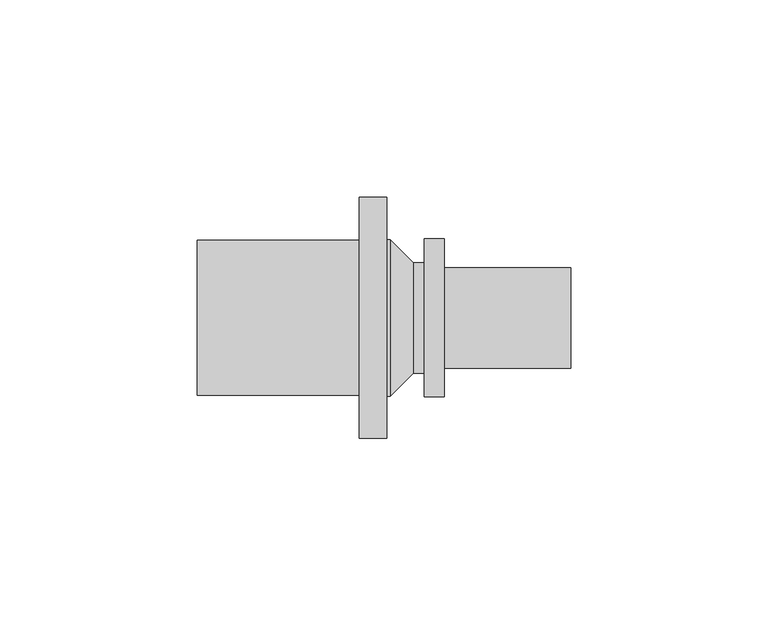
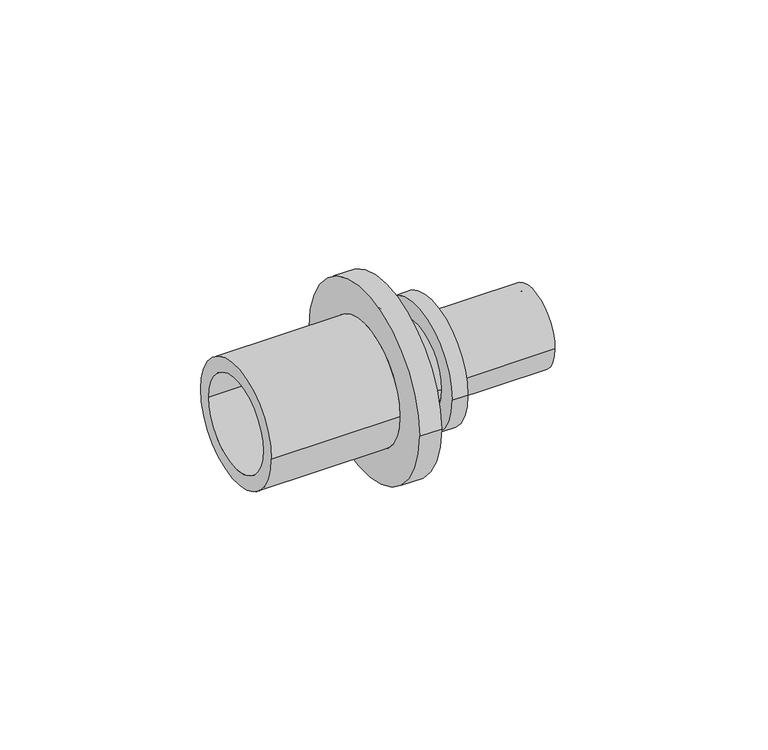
"""IFC4 building model written with IfcOpenShell, lengths in millimetres: pipe fitting geometry, RAUTITAN_Transition_LX : RTI LX Tr DE."""

from ifc_helpers import new_model, si_unit, frame, origin, place, context, project, spatial, polyline, circle_curve, source, transform, mapped, element, save
from ifc_brep_helpers import plane_surface, cylinder_surface, revolved_surface, advanced_brep


def pipe_fitting_b69b1b09(model_context):
    return source(origin(), model_context, "Body", "AdvancedBrep", [
        advanced_brep(
        [(-51.75, 15.0, 0.0), (-51.75, -15.0, 0.0), (-2.5, -15.0, 0.0), (-2.5, 15.0, 0.0), (-2.9, 19.8, 0.0), (-2.9, -19.8, 0.0), (-3.75, -19.8, 0.0), (-3.75, 19.8, 0.0), (2.9, 14.0, 0.0), (2.9, -14.0, 0.0), (5.75, 14.0, 0.0), (5.75, -14.0, 0.0), (10.75, 20.0, 0.0), (10.75, -20.0, 0.0), (5.75, -20.0, 0.0), (5.75, 20.0, 0.0), (42.75, 12.7, 0.0), (42.75, -12.7, 0.0), (10.75, -12.7, 0.0), (10.75, 12.7, 0.0), (2.5, 10.0, 0.0), (2.5, -10.0, 0.0), (42.75, -10.0, 0.0), (42.75, 10.0, 0.0), (-3.75, 30.5, 0.0), (-3.75, -30.5, 0.0), (-10.75, 19.6, 0.0), (-10.75, -19.6, 0.0), (-51.75, -19.6, 0.0), (-51.75, 19.6, 0.0), (-10.75, -30.5, 0.0), (-10.75, 30.5, 0.0)],
        [
            (0, 1, circle_curve(frame((-51.75, 0.0, 0.0), z_axis=(-1.0, 0.0, 0.0), x_axis=(0.0, -1.0, 0.0)), 15.0)),
            (1, 2),
            (2, 3, circle_curve(frame((-2.5, 0.0, 0.0), z_axis=(1.0, 0.0, 0.0), x_axis=(0.0, -1.0, 0.0)), 15.0)),
            (3, 0),
            (4, 5, circle_curve(frame((-2.9, 0.0, 0.0), z_axis=(-1.0, 0.0, 0.0), x_axis=(0.0, -1.0, 0.0)), 19.8)),
            (5, 6),
            (6, 7, circle_curve(frame((-3.75, 0.0, 0.0), z_axis=(1.0, 0.0, 0.0), x_axis=(0.0, -1.0, 0.0)), 19.8)),
            (7, 4),
            (8, 9, circle_curve(frame((2.9, 0.0, 0.0), z_axis=(-1.0, 0.0, 0.0), x_axis=(0.0, -1.0, 0.0)), 14.0)),
            (9, 5),
            (4, 8),
            (10, 11, circle_curve(frame((5.75, 0.0, 0.0), z_axis=(-1.0, 0.0, 0.0), x_axis=(0.0, -1.0, 0.0)), 14.0)),
            (11, 9),
            (8, 10),
            (12, 13, circle_curve(frame((10.75, 0.0, 0.0), z_axis=(-1.0, 0.0, 0.0), x_axis=(0.0, -1.0, 0.0)), 20.0)),
            (13, 14),
            (14, 15, circle_curve(frame((5.75, 0.0, 0.0), z_axis=(1.0, 0.0, 0.0), x_axis=(0.0, -1.0, 0.0)), 20.0)),
            (15, 12),
            (16, 17, circle_curve(frame((42.75, 0.0, 0.0), z_axis=(-1.0, 0.0, 0.0), x_axis=(0.0, -1.0, 0.0)), 12.7)),
            (17, 18),
            (18, 19, circle_curve(frame((10.75, 0.0, 0.0), z_axis=(1.0, 0.0, 0.0), x_axis=(0.0, -1.0, 0.0)), 12.7)),
            (19, 16),
            (20, 21, circle_curve(frame((2.5, 0.0, 0.0), z_axis=(-1.0, 0.0, 0.0), x_axis=(0.0, -1.0, 0.0)), 10.0)),
            (21, 22),
            (22, 23, circle_curve(frame((42.75, 0.0, 0.0), z_axis=(1.0, 0.0, 0.0), x_axis=(0.0, -1.0, 0.0)), 10.0)),
            (23, 20),
            (2, 21),
            (20, 3),
            (1, 0, circle_curve(frame((-51.75, 0.0, 0.0), z_axis=(-1.0, 0.0, 0.0), x_axis=(0.0, 1.0, 0.0)), 15.0)),
            (3, 2, circle_curve(frame((-2.5, 0.0, 0.0), z_axis=(1.0, 0.0, 0.0), x_axis=(0.0, 1.0, 0.0)), 15.0)),
            (24, 25, circle_curve(frame((-3.75, 0.0, 0.0), z_axis=(1.0, 0.0, 0.0), x_axis=(0.0, 1.0, 0.0)), 30.5)),
            (25, 24, circle_curve(frame((-3.75, 0.0, 0.0), z_axis=(1.0, 0.0, 0.0), x_axis=(0.0, -1.0, 0.0)), 30.5)),
            (6, 7, circle_curve(frame((-3.75, 0.0, 0.0), z_axis=(-1.0, 0.0, 0.0), x_axis=(0.0, 1.0, 0.0)), 19.8)),
            (5, 4, circle_curve(frame((-2.9, 0.0, 0.0), z_axis=(-1.0, 0.0, 0.0), x_axis=(0.0, 1.0, 0.0)), 19.8)),
            (9, 8, circle_curve(frame((2.9, 0.0, 0.0), z_axis=(-1.0, 0.0, 0.0), x_axis=(0.0, 1.0, 0.0)), 14.0)),
            (11, 10, circle_curve(frame((5.75, 0.0, 0.0), z_axis=(-1.0, 0.0, 0.0), x_axis=(0.0, 1.0, 0.0)), 14.0)),
            (14, 15, circle_curve(frame((5.75, 0.0, 0.0), z_axis=(-1.0, 0.0, 0.0), x_axis=(0.0, 1.0, 0.0)), 20.0)),
            (13, 12, circle_curve(frame((10.75, 0.0, 0.0), z_axis=(-1.0, 0.0, 0.0), x_axis=(0.0, 1.0, 0.0)), 20.0)),
            (18, 19, circle_curve(frame((10.75, 0.0, 0.0), z_axis=(-1.0, 0.0, 0.0), x_axis=(0.0, 1.0, 0.0)), 12.7)),
            (17, 16, circle_curve(frame((42.75, 0.0, 0.0), z_axis=(-1.0, 0.0, 0.0), x_axis=(0.0, 1.0, 0.0)), 12.7)),
            (22, 23, circle_curve(frame((42.75, 0.0, 0.0), z_axis=(-1.0, 0.0, 0.0), x_axis=(0.0, 1.0, 0.0)), 10.0)),
            (21, 20, circle_curve(frame((2.5, 0.0, 0.0), z_axis=(-1.0, 0.0, 0.0), x_axis=(0.0, 1.0, 0.0)), 10.0)),
            (26, 27, circle_curve(frame((-10.75, 0.0, 0.0), z_axis=(-1.0, 0.0, 0.0), x_axis=(0.0, -1.0, 0.0)), 19.6)),
            (27, 28),
            (28, 29, circle_curve(frame((-51.75, 0.0, 0.0), z_axis=(1.0, 0.0, 0.0), x_axis=(0.0, -1.0, 0.0)), 19.6)),
            (29, 26),
            (25, 30),
            (30, 31, circle_curve(frame((-10.75, 0.0, 0.0), z_axis=(1.0, 0.0, 0.0), x_axis=(0.0, -1.0, 0.0)), 30.5)),
            (31, 24),
            (28, 29, circle_curve(frame((-51.75, 0.0, 0.0), z_axis=(-1.0, 0.0, 0.0), x_axis=(0.0, 1.0, 0.0)), 19.6)),
            (27, 26, circle_curve(frame((-10.75, 0.0, 0.0), z_axis=(-1.0, 0.0, 0.0), x_axis=(0.0, 1.0, 0.0)), 19.6)),
            (30, 31, circle_curve(frame((-10.75, 0.0, 0.0), z_axis=(-1.0, 0.0, 0.0), x_axis=(0.0, 1.0, 0.0)), 30.5)),
        ],
        [
            revolved_surface(polyline([(-2.5, -15.0, 0.0), (-51.75, -15.0, 0.0)]), (0.0, 0.0, 0.0), (1.0, 0.0, 0.0)),
            cylinder_surface(frame((0.0, 0.0, 0.0), z_axis=(1.0, 0.0, 0.0), x_axis=(0.0, -1.0, 0.0)), 19.8),
            revolved_surface(polyline([(-2.9, -19.8, 0.0), (2.9, -14.0, 0.0)]), (0.0, 0.0, 0.0), (1.0, 0.0, 0.0)),
            cylinder_surface(frame((0.0, 0.0, 0.0), z_axis=(1.0, 0.0, 0.0), x_axis=(0.0, -1.0, 0.0)), 14.0),
            cylinder_surface(frame((0.0, 0.0, 0.0), z_axis=(1.0, 0.0, 0.0), x_axis=(0.0, -1.0, 0.0)), 20.0),
            cylinder_surface(frame((0.0, 0.0, 0.0), z_axis=(1.0, 0.0, 0.0), x_axis=(0.0, -1.0, 0.0)), 12.7),
            revolved_surface(polyline([(42.75, -10.0, 0.0), (2.5, -10.0, 0.0)]), (0.0, 0.0, 0.0), (1.0, 0.0, 0.0)),
            revolved_surface(polyline([(2.5, -10.0, 0.0), (-2.5, -15.0, 0.0)]), (0.0, 0.0, 0.0), (1.0, 0.0, 0.0)),
            revolved_surface(polyline([(-2.5, 15.0, 0.0), (-51.75, 15.0, 0.0)]), (0.0, 0.0, 0.0), (1.0, 0.0, 0.0)),
            plane_surface(frame((-3.75, 0.0, 0.0), z_axis=(1.0, 0.0, 0.0), x_axis=(0.0, 1.0, 0.0))),
            cylinder_surface(frame((0.0, 0.0, 0.0), z_axis=(1.0, 0.0, 0.0), x_axis=(0.0, 1.0, 0.0)), 19.8),
            revolved_surface(polyline([(-2.9, 19.8, 0.0), (2.9, 14.0, 0.0)]), (0.0, 0.0, 0.0), (1.0, 0.0, 0.0)),
            cylinder_surface(frame((0.0, 0.0, 0.0), z_axis=(1.0, 0.0, 0.0), x_axis=(0.0, 1.0, 0.0)), 14.0),
            plane_surface(frame((5.75, 0.0, 0.0), z_axis=(-1.0, 0.0, 0.0), x_axis=(0.0, 1.0, 0.0))),
            cylinder_surface(frame((0.0, 0.0, 0.0), z_axis=(1.0, 0.0, 0.0), x_axis=(0.0, 1.0, 0.0)), 20.0),
            plane_surface(frame((10.75, 0.0, 0.0), z_axis=(1.0, 0.0, 0.0), x_axis=(0.0, 1.0, 0.0))),
            cylinder_surface(frame((0.0, 0.0, 0.0), z_axis=(1.0, 0.0, 0.0), x_axis=(0.0, 1.0, 0.0)), 12.7),
            plane_surface(frame((42.75, 0.0, 0.0), z_axis=(1.0, 0.0, 0.0), x_axis=(0.0, 1.0, 0.0))),
            revolved_surface(polyline([(42.75, 10.0, 0.0), (2.5, 10.0, 0.0)]), (0.0, 0.0, 0.0), (1.0, 0.0, 0.0)),
            revolved_surface(polyline([(2.5, 10.0, 0.0), (-2.5, 15.0, 0.0)]), (0.0, 0.0, 0.0), (1.0, 0.0, 0.0)),
            cylinder_surface(frame((0.0, 0.0, 0.0), z_axis=(1.0, 0.0, 0.0), x_axis=(0.0, -1.0, 0.0)), 19.6),
            cylinder_surface(frame((0.0, 0.0, 0.0), z_axis=(1.0, 0.0, 0.0), x_axis=(0.0, -1.0, 0.0)), 30.5),
            plane_surface(frame((-51.75, 0.0, 0.0), z_axis=(-1.0, 0.0, 0.0), x_axis=(0.0, 1.0, 0.0))),
            cylinder_surface(frame((0.0, 0.0, 0.0), z_axis=(1.0, 0.0, 0.0), x_axis=(0.0, 1.0, 0.0)), 19.6),
            plane_surface(frame((-10.75, 0.0, 0.0), z_axis=(-1.0, 0.0, 0.0), x_axis=(0.0, 1.0, 0.0))),
            cylinder_surface(frame((0.0, 0.0, 0.0), z_axis=(1.0, 0.0, 0.0), x_axis=(0.0, 1.0, 0.0)), 30.5),
        ],
        [
            (0, [[1, 2, 3, 4]]),
            (1, [[5, 6, 7, 8]]),
            (2, [[9, 10, -5, 11]]),
            (3, [[12, 13, -9, 14]]),
            (4, [[15, 16, 17, 18]]),
            (5, [[19, 20, 21, 22]]),
            (6, [[23, 24, 25, 26]]),
            (7, [[-3, 27, -23, 28]]),
            (8, [[29, -4, 30, -2]]),
            (9, [[31, 32], [33, -7]]),
            (10, [[34, -8, -33, -6]]),
            (11, [[35, -11, -34, -10]]),
            (12, [[36, -14, -35, -13]]),
            (13, [[37, -17], [-36, -12]]),
            (14, [[38, -18, -37, -16]]),
            (15, [[-38, -15], [39, -21]]),
            (16, [[40, -22, -39, -20]]),
            (17, [[-40, -19], [41, -25]]),
            (18, [[42, -26, -41, -24]]),
            (19, [[-30, -28, -42, -27]]),
            (20, [[43, 44, 45, 46]]),
            (21, [[-32, 47, 48, 49]]),
            (22, [[50, -45], [-29, -1]]),
            (23, [[51, -46, -50, -44]]),
            (24, [[52, -48], [-51, -43]]),
            (25, [[-31, -49, -52, -47]]),
        ],
    ),
    ])


if __name__ == "__main__":
    model = new_model("IFC4")
    model_context = context("Model", 3, world=origin())
    ifc_project = project(units=[si_unit("LENGTHUNIT", "METRE", prefix="MILLI")], contexts=[model_context])
    site = spatial("IfcSite", under=ifc_project)
    building = spatial("IfcBuilding", under=site)
    placement = place(None, origin())
    pipe_fitting_shape = pipe_fitting_b69b1b09(model_context)
    element("IfcPipeFitting", 1, ObjectType="RAUTITAN_Transition_LX : RTI LX Tr DE", at=placement, inside=building, context=model_context, shape_type="MappedRepresentation", body=[
        mapped(pipe_fitting_shape, transform((0.0, 0.0, 0.0), x_axis=(1.0, 0.0, 0.0), y_axis=(0.0, 1.0, 0.0), z_axis=(0.0, 0.0, 1.0))),
    ])
    save(model, "model.ifc")
